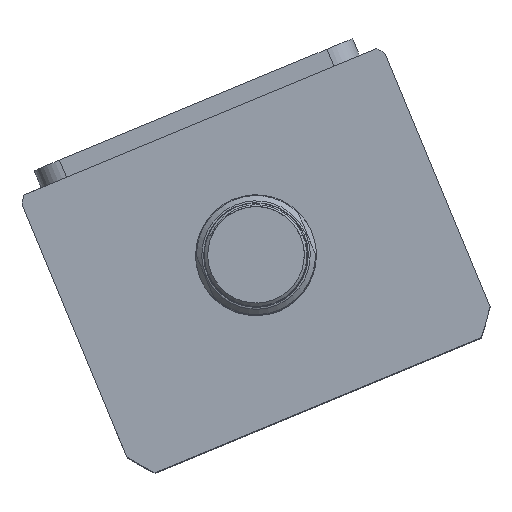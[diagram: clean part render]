
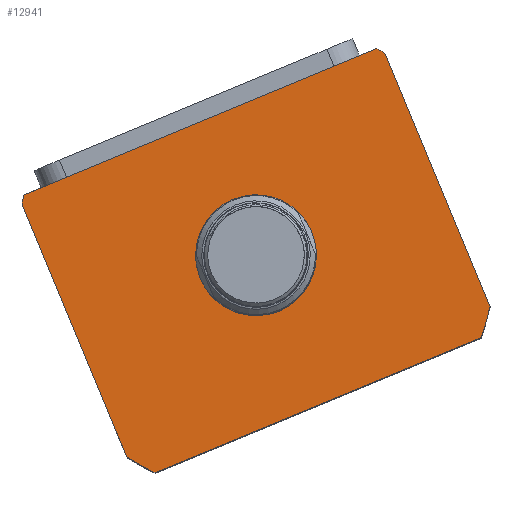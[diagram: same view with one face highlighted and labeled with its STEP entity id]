
A CAD part, top view. The second image highlights one B-rep face of the part: STEP entity #12941.
In plain terms, the highlighted planar face has unit normal (0, 0, 1) as drawn and (0, 0, -1) by its records, which use the part's own axes.
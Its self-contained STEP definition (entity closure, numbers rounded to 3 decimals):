
#141 = CARTESIAN_POINT ( 'NONE',  ( 0., 0., 0. ) ) ;
#263 = ORIENTED_EDGE ( 'NONE', *, *, #4552, .F. ) ;
#433 = VECTOR ( 'NONE', #25398, 1000. ) ;
#1797 = AXIS2_PLACEMENT_3D ( 'NONE', #7456, #22637, #9625 ) ;
#1844 = EDGE_CURVE ( 'NONE', #18995, #25786, #13372, .T. ) ;
#2731 = AXIS2_PLACEMENT_3D ( 'NONE', #16438, #3521, #18625 ) ;
#3232 = DIRECTION ( 'NONE',  ( 0., 0., 1. ) ) ;
#3521 = DIRECTION ( 'NONE',  ( 0., 0., 1. ) ) ;
#3941 = EDGE_CURVE ( 'NONE', #25786, #18995, #18070, .T. ) ;
#3950 = VERTEX_POINT ( 'NONE', #5244 ) ;
#4133 = DIRECTION ( 'NONE',  ( -1., 0., 0. ) ) ;
#4221 = DIRECTION ( 'NONE',  ( 0., 0., 1. ) ) ;
#4335 = EDGE_CURVE ( 'NONE', #9210, #25940, #10321, .T. ) ;
#4498 = DIRECTION ( 'NONE',  ( 1., 0., 0. ) ) ;
#4552 = EDGE_CURVE ( 'NONE', #12166, #19831, #19778, .T. ) ;
#5244 = CARTESIAN_POINT ( 'NONE',  ( 55.374, 44.5, 0. ) ) ;
#6103 = FACE_OUTER_BOUND ( 'NONE', #14437, .T. ) ;
#6291 = CARTESIAN_POINT ( 'NONE',  ( -57., 44.5, 0. ) ) ;
#7374 = CARTESIAN_POINT ( 'NONE',  ( -51.198, -44.5, 0. ) ) ;
#7456 = CARTESIAN_POINT ( 'NONE',  ( 0., 2.5, 0. ) ) ;
#8104 = ORIENTED_EDGE ( 'NONE', *, *, #1844, .T. ) ;
#8221 = VECTOR ( 'NONE', #4133, 1000. ) ;
#8410 = ORIENTED_EDGE ( 'NONE', *, *, #20683, .F. ) ;
#8599 = AXIS2_PLACEMENT_3D ( 'NONE', #16167, #3232, #18336 ) ;
#8657 = CARTESIAN_POINT ( 'NONE',  ( 17.5, 2.5, 0. ) ) ;
#8907 = VERTEX_POINT ( 'NONE', #15137 ) ;
#9210 = VERTEX_POINT ( 'NONE', #24502 ) ;
#9520 = VERTEX_POINT ( 'NONE', #7374 ) ;
#9625 = DIRECTION ( 'NONE',  ( 1., 0., 0. ) ) ;
#9818 = EDGE_CURVE ( 'NONE', #25940, #8907, #23537, .T. ) ;
#10321 = CIRCLE ( 'NONE', #2731, 69.5 ) ;
#10611 = CARTESIAN_POINT ( 'NONE',  ( 0., 2.5, 0. ) ) ;
#10943 = PLANE ( 'NONE',  #20313 ) ;
#11195 = EDGE_LOOP ( 'NONE', ( #8104, #17525 ) ) ;
#11221 = EDGE_CURVE ( 'NONE', #3950, #9210, #12572, .T. ) ;
#11383 = CIRCLE ( 'NONE', #22487, 69.5 ) ;
#12166 = VERTEX_POINT ( 'NONE', #25817 ) ;
#12572 = LINE ( 'NONE', #6291, #8221 ) ;
#12747 = DIRECTION ( 'NONE',  ( 1., 0., 0. ) ) ;
#12941 = ADVANCED_FACE ( 'NONE', ( #19666, #6103 ), #10943, .F. ) ;
#13372 = CIRCLE ( 'NONE', #26320, 17.5 ) ;
#14437 = EDGE_LOOP ( 'NONE', ( #22017, #15140, #263, #27079, #8410, #23686, #15797, #19921 ) ) ;
#14525 = LINE ( 'NONE', #18102, #24773 ) ;
#14552 = CARTESIAN_POINT ( 'NONE',  ( 57., 44.5, 0. ) ) ;
#15137 = CARTESIAN_POINT ( 'NONE',  ( -57., -37.265, 0. ) ) ;
#15140 = ORIENTED_EDGE ( 'NONE', *, *, #15965, .F. ) ;
#15575 = EDGE_CURVE ( 'NONE', #9520, #12166, #14525, .T. ) ;
#15627 = CARTESIAN_POINT ( 'NONE',  ( 0., 2.5, 0. ) ) ;
#15751 = AXIS2_PLACEMENT_3D ( 'NONE', #10611, #25815, #12747 ) ;
#15797 = ORIENTED_EDGE ( 'NONE', *, *, #4335, .F. ) ;
#15965 = EDGE_CURVE ( 'NONE', #19831, #20883, #25764, .T. ) ;
#16167 = CARTESIAN_POINT ( 'NONE',  ( 0., 2.5, 0. ) ) ;
#16438 = CARTESIAN_POINT ( 'NONE',  ( 0., 2.5, 0. ) ) ;
#16699 = DIRECTION ( 'NONE',  ( 0., 1., 0. ) ) ;
#16968 = CARTESIAN_POINT ( 'NONE',  ( -17.5, 2.5, 0. ) ) ;
#17130 = CARTESIAN_POINT ( 'NONE',  ( 0., 2.5, 0. ) ) ;
#17410 = DIRECTION ( 'NONE',  ( 0., 0., 1. ) ) ;
#17525 = ORIENTED_EDGE ( 'NONE', *, *, #3941, .T. ) ;
#17607 = DIRECTION ( 'NONE',  ( 0., 0., 1. ) ) ;
#17875 = DIRECTION ( 'NONE',  ( 1., 0., 0. ) ) ;
#17943 = EDGE_CURVE ( 'NONE', #20883, #3950, #22331, .T. ) ;
#18070 = CIRCLE ( 'NONE', #1797, 17.5 ) ;
#18102 = CARTESIAN_POINT ( 'NONE',  ( -57., -44.5, 0. ) ) ;
#18336 = DIRECTION ( 'NONE',  ( 1., 0., 0. ) ) ;
#18625 = DIRECTION ( 'NONE',  ( 1., 0., 0. ) ) ;
#18995 = VERTEX_POINT ( 'NONE', #8657 ) ;
#19332 = DIRECTION ( 'NONE',  ( 1., 0., 0. ) ) ;
#19666 = FACE_BOUND ( 'NONE', #11195, .T. ) ;
#19745 = CARTESIAN_POINT ( 'NONE',  ( 57., -37.265, 0. ) ) ;
#19778 = CIRCLE ( 'NONE', #15751, 69.5 ) ;
#19831 = VERTEX_POINT ( 'NONE', #19745 ) ;
#19921 = ORIENTED_EDGE ( 'NONE', *, *, #11221, .F. ) ;
#19937 = VECTOR ( 'NONE', #16699, 1000. ) ;
#20313 = AXIS2_PLACEMENT_3D ( 'NONE', #141, #17410, #4498 ) ;
#20334 = DIRECTION ( 'NONE',  ( 1., 0., 0. ) ) ;
#20683 = EDGE_CURVE ( 'NONE', #8907, #9520, #11383, .T. ) ;
#20883 = VERTEX_POINT ( 'NONE', #26811 ) ;
#22017 = ORIENTED_EDGE ( 'NONE', *, *, #17943, .F. ) ;
#22331 = CIRCLE ( 'NONE', #8599, 69.5 ) ;
#22487 = AXIS2_PLACEMENT_3D ( 'NONE', #17130, #4221, #19332 ) ;
#22637 = DIRECTION ( 'NONE',  ( 0., 0., 1. ) ) ;
#23312 = CARTESIAN_POINT ( 'NONE',  ( -57., 44.5, 0. ) ) ;
#23537 = LINE ( 'NONE', #23312, #433 ) ;
#23686 = ORIENTED_EDGE ( 'NONE', *, *, #9818, .F. ) ;
#24502 = CARTESIAN_POINT ( 'NONE',  ( -55.374, 44.5, 0. ) ) ;
#24523 = CARTESIAN_POINT ( 'NONE',  ( -57., 42.265, 0. ) ) ;
#24773 = VECTOR ( 'NONE', #20334, 1000. ) ;
#25398 = DIRECTION ( 'NONE',  ( 0., -1., 0. ) ) ;
#25764 = LINE ( 'NONE', #14552, #19937 ) ;
#25786 = VERTEX_POINT ( 'NONE', #16968 ) ;
#25815 = DIRECTION ( 'NONE',  ( 0., 0., 1. ) ) ;
#25817 = CARTESIAN_POINT ( 'NONE',  ( 51.198, -44.5, 0. ) ) ;
#25940 = VERTEX_POINT ( 'NONE', #24523 ) ;
#26320 = AXIS2_PLACEMENT_3D ( 'NONE', #15627, #17607, #17875 ) ;
#26811 = CARTESIAN_POINT ( 'NONE',  ( 57., 42.265, 0. ) ) ;
#27079 = ORIENTED_EDGE ( 'NONE', *, *, #15575, .F. ) ;
